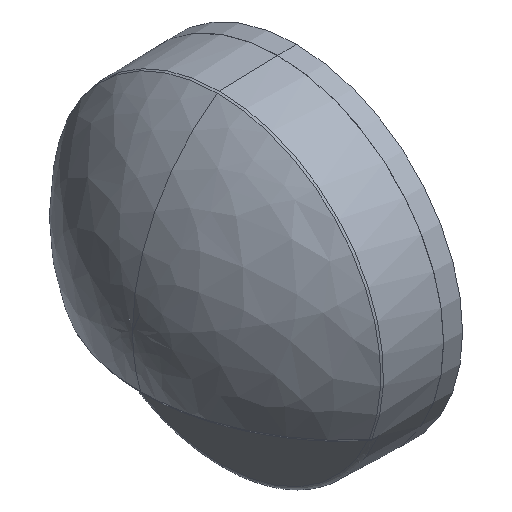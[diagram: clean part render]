
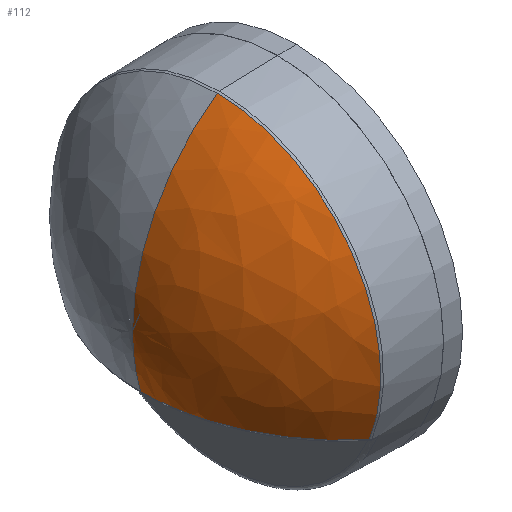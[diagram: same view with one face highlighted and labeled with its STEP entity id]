
A CAD part, isometric view. The second image highlights one B-rep face of the part: STEP entity #112.
In plain terms, the highlighted free-form (B-spline) face has degree [2, 2] with [5, 5] control points.
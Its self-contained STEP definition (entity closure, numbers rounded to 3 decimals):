
#112=ADVANCED_FACE('',(#319),#3488,.T.);
#319=FACE_OUTER_BOUND('',#528,.T.);
#528=EDGE_LOOP('',(#1054,#1055,#1056,#1057));
#1054=ORIENTED_EDGE('',*,*,#1857,.F.);
#1055=ORIENTED_EDGE('',*,*,#1802,.T.);
#1056=ORIENTED_EDGE('',*,*,#1804,.T.);
#1057=ORIENTED_EDGE('',*,*,#1934,.F.);
#1802=EDGE_CURVE('',#3015,#3016,#2696,.T.);
#1804=EDGE_CURVE('',#3016,#3014,#2698,.T.);
#1857=EDGE_CURVE('',#3015,#3052,#2708,.T.);
#1934=EDGE_CURVE('',#3052,#3014,#2733,.T.);
#2696=TRIMMED_CURVE($,#2838,(#6765),(#6766),.T.,.CARTESIAN.);
#2698=TRIMMED_CURVE($,#2840,(#6771),(#6772),.T.,.CARTESIAN.);
#2708=TRIMMED_CURVE($,#2850,(#7197),(#7198),.T.,.CARTESIAN.);
#2733=TRIMMED_CURVE($,#2875,(#7964),(#7965),.T.,.CARTESIAN.);
#2838=CIRCLE('',#3642,43.956);
#2840=CIRCLE('',#3644,53.893);
#2850=CIRCLE('',#3654,50.843);
#2875=CIRCLE('',#3679,53.893);
#3014=VERTEX_POINT('',#6410);
#3015=VERTEX_POINT('',#6411);
#3016=VERTEX_POINT('',#6412);
#3052=VERTEX_POINT('',#6448);
#3488=(
BOUNDED_SURFACE()
B_SPLINE_SURFACE(2,2,((#6302,#6303,#6304,#6305,#6306),(#6307,#6308,#6309,
#6310,#6311),(#6312,#6313,#6314,#6315,#6316),(#6317,#6318,#6319,#6320,#6321),
(#6322,#6323,#6324,#6325,#6326)),.UNSPECIFIED.,.F.,.F.,.F.)
B_SPLINE_SURFACE_WITH_KNOTS((3,2,3),(3,2,3),(169.309,253.964,
338.618),(0.,84.655,169.309),.UNSPECIFIED.)
GEOMETRIC_REPRESENTATION_ITEM()
RATIONAL_B_SPLINE_SURFACE(((1.,0.707,1.,0.707,1.),
(0.707,0.5,0.707,0.5,0.707),(1.,0.707,
1.,0.707,1.),(0.707,0.5,0.707,0.5,0.707),
(1.,0.707,1.,0.707,1.)))
REPRESENTATION_ITEM('')
SURFACE()
);
#3642=AXIS2_PLACEMENT_3D($,#6764,#3955,#3956);
#3644=AXIS2_PLACEMENT_3D($,#6770,#3959,#3960);
#3654=AXIS2_PLACEMENT_3D($,#7196,#3979,#3980);
#3679=AXIS2_PLACEMENT_3D($,#7963,#4029,#4030);
#3955=DIRECTION('',(-1.,0.,0.));
#3956=DIRECTION('',(0.,-0.929,-0.37));
#3959=DIRECTION('',(0.,-1.,0.));
#3960=DIRECTION('',(-0.579,0.,0.816));
#3979=DIRECTION('',(-0.052,0.,-0.999));
#3980=DIRECTION('',(-0.595,-0.803,0.031));
#4029=DIRECTION('',(0.,1.,0.));
#4030=DIRECTION('',(-0.959,0.,-0.282));
#6302=CARTESIAN_POINT('',(67.15,0.,45.606));
#6303=CARTESIAN_POINT('',(67.15,0.,-8.287));
#6304=CARTESIAN_POINT('',(13.257,0.,-8.287));
#6305=CARTESIAN_POINT('',(-40.636,0.,-8.287));
#6306=CARTESIAN_POINT('',(-40.636,0.,45.606));
#6307=CARTESIAN_POINT('',(67.15,0.,45.606));
#6308=CARTESIAN_POINT('',(67.15,-53.893,-8.287));
#6309=CARTESIAN_POINT('',(13.257,-53.893,-8.287));
#6310=CARTESIAN_POINT('',(-40.636,-53.893,-8.287));
#6311=CARTESIAN_POINT('',(-40.636,0.,45.606));
#6312=CARTESIAN_POINT('',(67.15,0.,45.606));
#6313=CARTESIAN_POINT('',(67.15,-53.893,45.606));
#6314=CARTESIAN_POINT('',(13.257,-53.893,45.606));
#6315=CARTESIAN_POINT('',(-40.636,-53.893,45.606));
#6316=CARTESIAN_POINT('',(-40.636,0.,45.606));
#6317=CARTESIAN_POINT('',(67.15,0.,45.606));
#6318=CARTESIAN_POINT('',(67.15,-53.893,99.499));
#6319=CARTESIAN_POINT('',(13.257,-53.893,99.499));
#6320=CARTESIAN_POINT('',(-40.636,-53.893,99.499));
#6321=CARTESIAN_POINT('',(-40.636,0.,45.606));
#6322=CARTESIAN_POINT('',(67.15,0.,45.606));
#6323=CARTESIAN_POINT('',(67.15,0.,99.499));
#6324=CARTESIAN_POINT('',(13.257,0.,99.499));
#6325=CARTESIAN_POINT('',(-40.636,0.,99.499));
#6326=CARTESIAN_POINT('',(-40.636,0.,45.606));
#6410=CARTESIAN_POINT('',(-40.636,0.,45.606));
#6411=CARTESIAN_POINT('',(-17.925,-40.837,29.343));
#6412=CARTESIAN_POINT('',(-17.925,0.,89.562));
#6448=CARTESIAN_POINT('',(-38.452,0.,30.419));
#6764=CARTESIAN_POINT('',(-17.925,0.,45.606));
#6765=CARTESIAN_POINT('',(-17.925,-40.837,29.343));
#6766=CARTESIAN_POINT('',(-17.925,0.,89.562));
#6770=CARTESIAN_POINT('',(13.257,0.,45.606));
#6771=CARTESIAN_POINT('',(-17.925,0.,89.562));
#6772=CARTESIAN_POINT('',(-40.636,0.,45.606));
#7196=CARTESIAN_POINT('',(12.321,0.,27.758));
#7197=CARTESIAN_POINT('',(-17.925,-40.837,29.343));
#7198=CARTESIAN_POINT('',(-38.452,0.,30.419));
#7963=CARTESIAN_POINT('',(13.257,0.,45.606));
#7964=CARTESIAN_POINT('',(-38.452,0.,30.419));
#7965=CARTESIAN_POINT('',(-40.636,0.,45.606));
